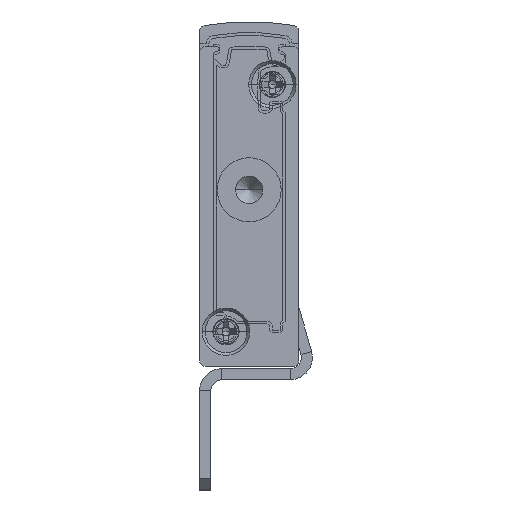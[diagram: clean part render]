
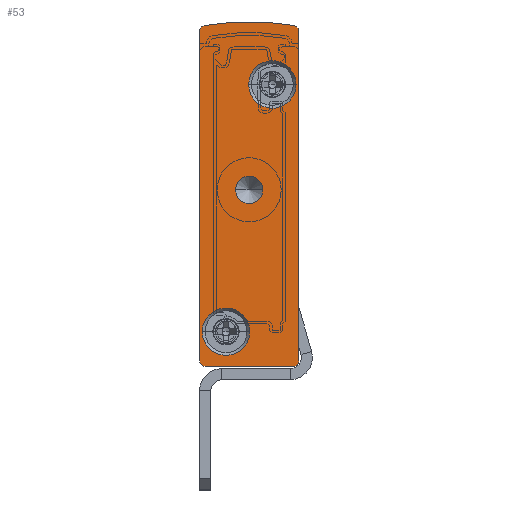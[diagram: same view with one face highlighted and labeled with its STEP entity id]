
A CAD part, front view. The second image highlights one B-rep face of the part: STEP entity #53.
In plain terms, the highlighted planar face has unit normal (0, -1, 0).
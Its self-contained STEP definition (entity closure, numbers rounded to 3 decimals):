
#53 = ADVANCED_FACE ( 'NONE', ( #36608, #35690, #33882, #26162 ), #19898, .F. ) ;
#930 = EDGE_LOOP ( 'NONE', ( #8750, #5600 ) ) ;
#1496 = DIRECTION ( 'NONE',  ( -1., 0., 0. ) ) ;
#2281 = VERTEX_POINT ( 'NONE', #6749 ) ;
#2621 = ORIENTED_EDGE ( 'NONE', *, *, #11217, .F. ) ;
#2683 = DIRECTION ( 'NONE',  ( 1., 0., 0. ) ) ;
#3059 = ORIENTED_EDGE ( 'NONE', *, *, #3350, .F. ) ;
#3350 = EDGE_CURVE ( 'NONE', #11935, #24636, #36176, .T. ) ;
#3817 = EDGE_CURVE ( 'NONE', #34033, #12453, #23780, .T. ) ;
#3896 = CARTESIAN_POINT ( 'NONE',  ( -3.25, -2.5, 16. ) ) ;
#4293 = EDGE_CURVE ( 'NONE', #2281, #8141, #13754, .T. ) ;
#4367 = CARTESIAN_POINT ( 'NONE',  ( 0., -2.5, 30.402 ) ) ;
#5098 = CARTESIAN_POINT ( 'NONE',  ( -2.4, -2.5, 25.55 ) ) ;
#5114 = ORIENTED_EDGE ( 'NONE', *, *, #4293, .F. ) ;
#5177 = DIRECTION ( 'NONE',  ( 1., 0., 0. ) ) ;
#5574 = DIRECTION ( 'NONE',  ( -1., 0., 0. ) ) ;
#5600 = ORIENTED_EDGE ( 'NONE', *, *, #25046, .T. ) ;
#5769 = CARTESIAN_POINT ( 'NONE',  ( -0.408, -2.5, 30.893 ) ) ;
#6236 = CIRCLE ( 'NONE', #35364, 0.5 ) ;
#6654 = ORIENTED_EDGE ( 'NONE', *, *, #24005, .F. ) ;
#6737 = LINE ( 'NONE', #27423, #34518 ) ;
#6749 = CARTESIAN_POINT ( 'NONE',  ( -8.75, -2.5, 3.15 ) ) ;
#6866 = CARTESIAN_POINT ( 'NONE',  ( -9., -2.5, 0.5 ) ) ;
#7155 = DIRECTION ( 'NONE',  ( -1., 0., 0. ) ) ;
#7347 = VERTEX_POINT ( 'NONE', #3896 ) ;
#7499 = VERTEX_POINT ( 'NONE', #36415 ) ;
#7633 = CARTESIAN_POINT ( 'NONE',  ( -8.5, -2.5, 0.5 ) ) ;
#8018 = DIRECTION ( 'NONE',  ( -1., 0., 0. ) ) ;
#8141 = VERTEX_POINT ( 'NONE', #9879 ) ;
#8606 = EDGE_LOOP ( 'NONE', ( #25769, #5114 ) ) ;
#8750 = ORIENTED_EDGE ( 'NONE', *, *, #33986, .T. ) ;
#9079 = VERTEX_POINT ( 'NONE', #33442 ) ;
#9331 = ORIENTED_EDGE ( 'NONE', *, *, #19873, .F. ) ;
#9354 = ORIENTED_EDGE ( 'NONE', *, *, #28575, .F. ) ;
#9879 = CARTESIAN_POINT ( 'NONE',  ( -4.45, -2.5, 3.15 ) ) ;
#9941 = DIRECTION ( 'NONE',  ( 0., 1., 0. ) ) ;
#10016 = ORIENTED_EDGE ( 'NONE', *, *, #3817, .F. ) ;
#10090 = CARTESIAN_POINT ( 'NONE',  ( -8.5, -2.5, 30.402 ) ) ;
#10158 = AXIS2_PLACEMENT_3D ( 'NONE', #7633, #19060, #33595 ) ;
#11001 = VERTEX_POINT ( 'NONE', #15786 ) ;
#11217 = EDGE_CURVE ( 'NONE', #9079, #20924, #6236, .T. ) ;
#11222 = DIRECTION ( 'NONE',  ( 0., 1., 0. ) ) ;
#11758 = AXIS2_PLACEMENT_3D ( 'NONE', #25848, #11222, #28297 ) ;
#11935 = VERTEX_POINT ( 'NONE', #30043 ) ;
#12418 = VERTEX_POINT ( 'NONE', #26614 ) ;
#12453 = VERTEX_POINT ( 'NONE', #35360 ) ;
#12760 = CARTESIAN_POINT ( 'NONE',  ( -0.5, -2.5, 0.5 ) ) ;
#13432 = AXIS2_PLACEMENT_3D ( 'NONE', #21612, #9941, #7155 ) ;
#13506 = DIRECTION ( 'NONE',  ( 0., 0., 1. ) ) ;
#13754 = CIRCLE ( 'NONE', #32367, 2.15 ) ;
#14169 = DIRECTION ( 'NONE',  ( -1., 0., 0. ) ) ;
#14446 = AXIS2_PLACEMENT_3D ( 'NONE', #22023, #33612, #15783 ) ;
#14477 = AXIS2_PLACEMENT_3D ( 'NONE', #22837, #37355, #31627 ) ;
#14703 = EDGE_LOOP ( 'NONE', ( #37449, #34139, #3059, #16389, #2621, #9354, #27344, #9331 ) ) ;
#15783 = DIRECTION ( 'NONE',  ( 1., 0., 0. ) ) ;
#15786 = CARTESIAN_POINT ( 'NONE',  ( -9., -2.5, 30.402 ) ) ;
#16389 = ORIENTED_EDGE ( 'NONE', *, *, #22487, .F. ) ;
#16698 = AXIS2_PLACEMENT_3D ( 'NONE', #10090, #30063, #1496 ) ;
#17211 = AXIS2_PLACEMENT_3D ( 'NONE', #5098, #20039, #2683 ) ;
#17323 = DIRECTION ( 'NONE',  ( 0., 1., 0. ) ) ;
#18461 = LINE ( 'NONE', #25079, #29894 ) ;
#19060 = DIRECTION ( 'NONE',  ( 0., 1., 0. ) ) ;
#19645 = CIRCLE ( 'NONE', #26420, 2.15 ) ;
#19702 = CARTESIAN_POINT ( 'NONE',  ( -8.5, -2.5, 0. ) ) ;
#19869 = DIRECTION ( 'NONE',  ( 1., 0., 0. ) ) ;
#19873 = EDGE_CURVE ( 'NONE', #12418, #30669, #20438, .T. ) ;
#19898 = PLANE ( 'NONE',  #14477 ) ;
#19991 = CIRCLE ( 'NONE', #13432, 1.25 ) ;
#20039 = DIRECTION ( 'NONE',  ( 0., -1., 0. ) ) ;
#20159 = CIRCLE ( 'NONE', #11758, 1.25 ) ;
#20163 = EDGE_CURVE ( 'NONE', #11001, #12418, #32262, .T. ) ;
#20438 = CIRCLE ( 'NONE', #25240, 23.658 ) ;
#20924 = VERTEX_POINT ( 'NONE', #29303 ) ;
#21612 = CARTESIAN_POINT ( 'NONE',  ( -4.5, -2.5, 16. ) ) ;
#22023 = CARTESIAN_POINT ( 'NONE',  ( -6.6, -2.5, 3.15 ) ) ;
#22160 = AXIS2_PLACEMENT_3D ( 'NONE', #28826, #17323, #14169 ) ;
#22470 = EDGE_LOOP ( 'NONE', ( #10016, #6654 ) ) ;
#22487 = EDGE_CURVE ( 'NONE', #20924, #11935, #28347, .T. ) ;
#22560 = DIRECTION ( 'NONE',  ( 0., -1., 0. ) ) ;
#22837 = CARTESIAN_POINT ( 'NONE',  ( -8.5, -2.5, 30.402 ) ) ;
#23730 = VECTOR ( 'NONE', #8018, 1000. ) ;
#23780 = CIRCLE ( 'NONE', #17211, 2.15 ) ;
#24005 = EDGE_CURVE ( 'NONE', #12453, #34033, #19645, .T. ) ;
#24217 = EDGE_CURVE ( 'NONE', #8141, #2281, #36477, .T. ) ;
#24636 = VERTEX_POINT ( 'NONE', #6866 ) ;
#25046 = EDGE_CURVE ( 'NONE', #7347, #7499, #20159, .T. ) ;
#25074 = CARTESIAN_POINT ( 'NONE',  ( -0.25, -2.5, 25.55 ) ) ;
#25079 = CARTESIAN_POINT ( 'NONE',  ( -9., -2.5, 30.402 ) ) ;
#25240 = AXIS2_PLACEMENT_3D ( 'NONE', #25667, #31636, #5574 ) ;
#25667 = CARTESIAN_POINT ( 'NONE',  ( -4.5, -2.5, 7.592 ) ) ;
#25769 = ORIENTED_EDGE ( 'NONE', *, *, #24217, .F. ) ;
#25848 = CARTESIAN_POINT ( 'NONE',  ( -4.5, -2.5, 16. ) ) ;
#26162 = FACE_BOUND ( 'NONE', #930, .T. ) ;
#26420 = AXIS2_PLACEMENT_3D ( 'NONE', #28969, #22560, #5177 ) ;
#26469 = CIRCLE ( 'NONE', #22160, 0.5 ) ;
#26614 = CARTESIAN_POINT ( 'NONE',  ( -8.592, -2.5, 30.893 ) ) ;
#27173 = DIRECTION ( 'NONE',  ( 0., 1., 0. ) ) ;
#27344 = ORIENTED_EDGE ( 'NONE', *, *, #33573, .F. ) ;
#27423 = CARTESIAN_POINT ( 'NONE',  ( 0., -2.5, 30.402 ) ) ;
#28297 = DIRECTION ( 'NONE',  ( -1., 0., 0. ) ) ;
#28347 = LINE ( 'NONE', #19702, #23730 ) ;
#28575 = EDGE_CURVE ( 'NONE', #32487, #9079, #6737, .T. ) ;
#28826 = CARTESIAN_POINT ( 'NONE',  ( -0.5, -2.5, 30.402 ) ) ;
#28969 = CARTESIAN_POINT ( 'NONE',  ( -2.4, -2.5, 25.55 ) ) ;
#29303 = CARTESIAN_POINT ( 'NONE',  ( -0.5, -2.5, 0. ) ) ;
#29345 = EDGE_CURVE ( 'NONE', #24636, #11001, #18461, .T. ) ;
#29894 = VECTOR ( 'NONE', #13506, 1000. ) ;
#30043 = CARTESIAN_POINT ( 'NONE',  ( -8.5, -2.5, 0. ) ) ;
#30063 = DIRECTION ( 'NONE',  ( 0., 1., 0. ) ) ;
#30444 = DIRECTION ( 'NONE',  ( 0., 0., -1. ) ) ;
#30669 = VERTEX_POINT ( 'NONE', #5769 ) ;
#31603 = CARTESIAN_POINT ( 'NONE',  ( -6.6, -2.5, 3.15 ) ) ;
#31627 = DIRECTION ( 'NONE',  ( -1., 0., 0. ) ) ;
#31636 = DIRECTION ( 'NONE',  ( 0., 1., 0. ) ) ;
#32262 = CIRCLE ( 'NONE', #16698, 0.5 ) ;
#32367 = AXIS2_PLACEMENT_3D ( 'NONE', #31603, #34294, #19869 ) ;
#32487 = VERTEX_POINT ( 'NONE', #4367 ) ;
#32719 = DIRECTION ( 'NONE',  ( -1., 0., 0. ) ) ;
#33442 = CARTESIAN_POINT ( 'NONE',  ( 0., -2.5, 0.5 ) ) ;
#33573 = EDGE_CURVE ( 'NONE', #30669, #32487, #26469, .T. ) ;
#33595 = DIRECTION ( 'NONE',  ( -1., 0., 0. ) ) ;
#33612 = DIRECTION ( 'NONE',  ( 0., -1., 0. ) ) ;
#33882 = FACE_OUTER_BOUND ( 'NONE', #14703, .T. ) ;
#33986 = EDGE_CURVE ( 'NONE', #7499, #7347, #19991, .T. ) ;
#34033 = VERTEX_POINT ( 'NONE', #25074 ) ;
#34139 = ORIENTED_EDGE ( 'NONE', *, *, #29345, .F. ) ;
#34294 = DIRECTION ( 'NONE',  ( 0., -1., 0. ) ) ;
#34518 = VECTOR ( 'NONE', #30444, 1000. ) ;
#35360 = CARTESIAN_POINT ( 'NONE',  ( -4.55, -2.5, 25.55 ) ) ;
#35364 = AXIS2_PLACEMENT_3D ( 'NONE', #12760, #27173, #32719 ) ;
#35690 = FACE_BOUND ( 'NONE', #8606, .T. ) ;
#36176 = CIRCLE ( 'NONE', #10158, 0.5 ) ;
#36415 = CARTESIAN_POINT ( 'NONE',  ( -5.75, -2.5, 16. ) ) ;
#36477 = CIRCLE ( 'NONE', #14446, 2.15 ) ;
#36608 = FACE_BOUND ( 'NONE', #22470, .T. ) ;
#37355 = DIRECTION ( 'NONE',  ( 0., 1., 0. ) ) ;
#37449 = ORIENTED_EDGE ( 'NONE', *, *, #20163, .F. ) ;
